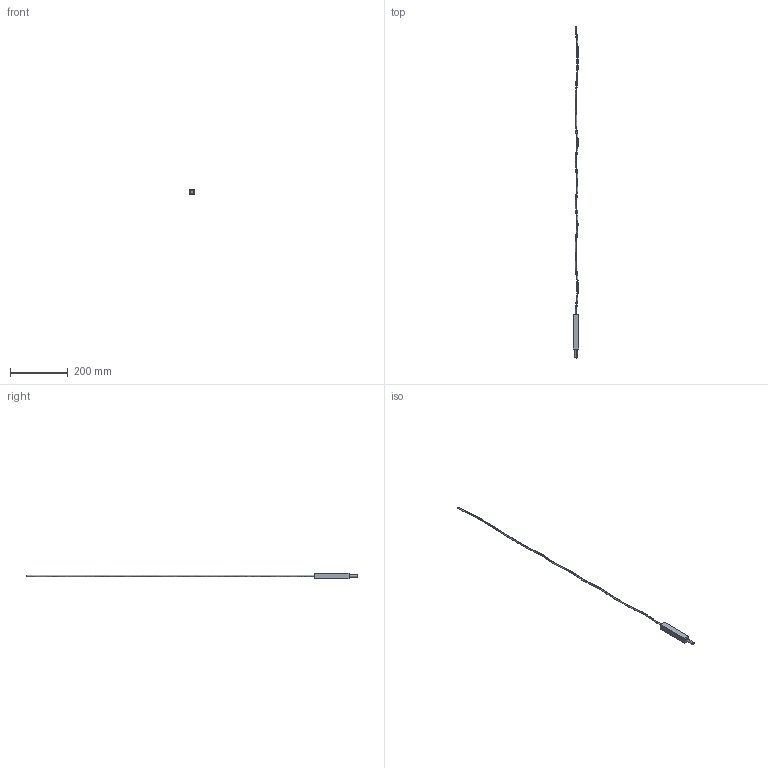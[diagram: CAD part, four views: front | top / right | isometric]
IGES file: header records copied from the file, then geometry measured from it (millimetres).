
Start section: SolidWorks IGES file using analytic representation for surfaces
Global section: file name: C:\Users\tungari.NEMOLIGHTING\Desktop\3D\SYSTEMS\3D_LINESCAPES_SYSTEMS\3D_LINESCAPES_VERTICAL_START\3D_LINESCAPES_VERTICAL_START.IGS; native system: SolidWorks 2016; preprocessor: SolidWorks 2016; author: tungari; date: 180409.130642; units: millimetre
Bounding box: 20 x 1146 x 20 mm (x, y, z)
Surface area: 26605 mm2 (no closed solid volume)
Topology: 0 solids, 0 shells, 14 faces, 168 edges, 168 vertices
Faces by surface type: bspline 12, revolution 2
